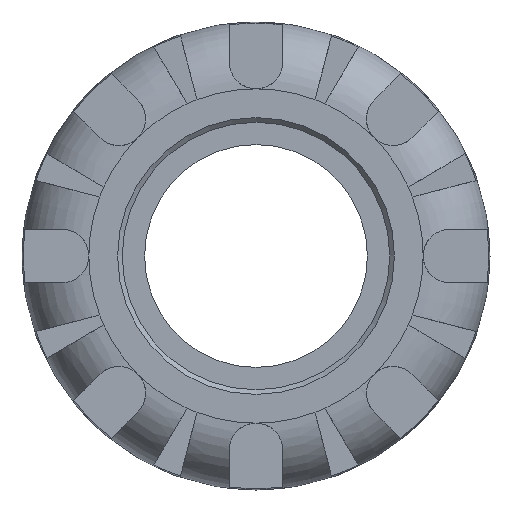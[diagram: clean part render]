
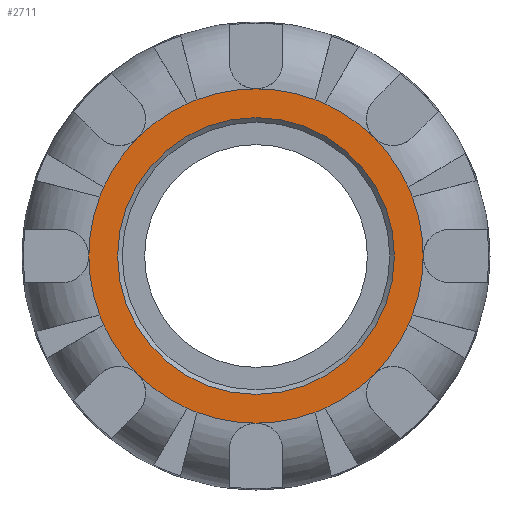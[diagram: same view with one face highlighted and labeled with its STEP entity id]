
A CAD part, left-side view. The second image highlights one B-rep face of the part: STEP entity #2711.
In plain terms, the highlighted planar face has unit normal (-1, 0, 0).
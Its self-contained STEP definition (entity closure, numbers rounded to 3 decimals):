
#19=FACE_BOUND('',#619,.T.);
#336=PLANE('',#2910);
#454=FACE_OUTER_BOUND('',#618,.T.);
#618=EDGE_LOOP('',(#1823,#1824,#1825,#1826,#1827,#1828,#1829,#1830,#1831,
#1832,#1833,#1834,#1835,#1836,#1837,#1838,#1839,#1840,#1841,#1842,#1843,
#1844,#1845,#1846));
#619=EDGE_LOOP('',(#1847));
#785=CIRCLE('',#2907,20.7);
#788=CIRCLE('',#2911,25.);
#789=CIRCLE('',#2912,25.);
#790=CIRCLE('',#2913,25.);
#791=CIRCLE('',#2914,25.);
#792=CIRCLE('',#2915,25.);
#793=CIRCLE('',#2916,25.);
#794=CIRCLE('',#2917,25.);
#795=CIRCLE('',#2918,25.);
#796=CIRCLE('',#2919,25.);
#797=CIRCLE('',#2920,25.);
#798=CIRCLE('',#2921,25.);
#799=CIRCLE('',#2922,25.);
#800=CIRCLE('',#2923,25.);
#801=CIRCLE('',#2924,25.);
#802=CIRCLE('',#2925,25.);
#803=CIRCLE('',#2926,25.);
#804=CIRCLE('',#2927,25.);
#805=CIRCLE('',#2928,25.);
#806=CIRCLE('',#2929,25.);
#807=CIRCLE('',#2930,25.);
#808=CIRCLE('',#2931,25.);
#809=CIRCLE('',#2932,25.);
#810=CIRCLE('',#2933,25.);
#811=CIRCLE('',#2934,25.);
#1077=VERTEX_POINT('',#4318);
#1080=VERTEX_POINT('',#4326);
#1081=VERTEX_POINT('',#4327);
#1082=VERTEX_POINT('',#4329);
#1083=VERTEX_POINT('',#4331);
#1084=VERTEX_POINT('',#4333);
#1085=VERTEX_POINT('',#4335);
#1086=VERTEX_POINT('',#4337);
#1087=VERTEX_POINT('',#4339);
#1088=VERTEX_POINT('',#4341);
#1089=VERTEX_POINT('',#4343);
#1090=VERTEX_POINT('',#4345);
#1091=VERTEX_POINT('',#4347);
#1092=VERTEX_POINT('',#4349);
#1093=VERTEX_POINT('',#4351);
#1094=VERTEX_POINT('',#4353);
#1095=VERTEX_POINT('',#4355);
#1096=VERTEX_POINT('',#4357);
#1097=VERTEX_POINT('',#4359);
#1098=VERTEX_POINT('',#4361);
#1099=VERTEX_POINT('',#4363);
#1100=VERTEX_POINT('',#4365);
#1101=VERTEX_POINT('',#4367);
#1102=VERTEX_POINT('',#4369);
#1103=VERTEX_POINT('',#4371);
#1363=EDGE_CURVE('',#1077,#1077,#785,.T.);
#1367=EDGE_CURVE('',#1080,#1081,#788,.T.);
#1368=EDGE_CURVE('',#1082,#1080,#789,.T.);
#1369=EDGE_CURVE('',#1083,#1082,#790,.T.);
#1370=EDGE_CURVE('',#1084,#1083,#791,.T.);
#1371=EDGE_CURVE('',#1085,#1084,#792,.T.);
#1372=EDGE_CURVE('',#1086,#1085,#793,.T.);
#1373=EDGE_CURVE('',#1087,#1086,#794,.T.);
#1374=EDGE_CURVE('',#1088,#1087,#795,.T.);
#1375=EDGE_CURVE('',#1089,#1088,#796,.T.);
#1376=EDGE_CURVE('',#1090,#1089,#797,.T.);
#1377=EDGE_CURVE('',#1091,#1090,#798,.T.);
#1378=EDGE_CURVE('',#1092,#1091,#799,.T.);
#1379=EDGE_CURVE('',#1093,#1092,#800,.T.);
#1380=EDGE_CURVE('',#1094,#1093,#801,.T.);
#1381=EDGE_CURVE('',#1095,#1094,#802,.T.);
#1382=EDGE_CURVE('',#1096,#1095,#803,.T.);
#1383=EDGE_CURVE('',#1097,#1096,#804,.T.);
#1384=EDGE_CURVE('',#1098,#1097,#805,.T.);
#1385=EDGE_CURVE('',#1099,#1098,#806,.T.);
#1386=EDGE_CURVE('',#1100,#1099,#807,.T.);
#1387=EDGE_CURVE('',#1101,#1100,#808,.T.);
#1388=EDGE_CURVE('',#1102,#1101,#809,.T.);
#1389=EDGE_CURVE('',#1103,#1102,#810,.T.);
#1390=EDGE_CURVE('',#1081,#1103,#811,.T.);
#1823=ORIENTED_EDGE('',*,*,#1367,.F.);
#1824=ORIENTED_EDGE('',*,*,#1368,.F.);
#1825=ORIENTED_EDGE('',*,*,#1369,.F.);
#1826=ORIENTED_EDGE('',*,*,#1370,.F.);
#1827=ORIENTED_EDGE('',*,*,#1371,.F.);
#1828=ORIENTED_EDGE('',*,*,#1372,.F.);
#1829=ORIENTED_EDGE('',*,*,#1373,.F.);
#1830=ORIENTED_EDGE('',*,*,#1374,.F.);
#1831=ORIENTED_EDGE('',*,*,#1375,.F.);
#1832=ORIENTED_EDGE('',*,*,#1376,.F.);
#1833=ORIENTED_EDGE('',*,*,#1377,.F.);
#1834=ORIENTED_EDGE('',*,*,#1378,.F.);
#1835=ORIENTED_EDGE('',*,*,#1379,.F.);
#1836=ORIENTED_EDGE('',*,*,#1380,.F.);
#1837=ORIENTED_EDGE('',*,*,#1381,.F.);
#1838=ORIENTED_EDGE('',*,*,#1382,.F.);
#1839=ORIENTED_EDGE('',*,*,#1383,.F.);
#1840=ORIENTED_EDGE('',*,*,#1384,.F.);
#1841=ORIENTED_EDGE('',*,*,#1385,.F.);
#1842=ORIENTED_EDGE('',*,*,#1386,.F.);
#1843=ORIENTED_EDGE('',*,*,#1387,.F.);
#1844=ORIENTED_EDGE('',*,*,#1388,.F.);
#1845=ORIENTED_EDGE('',*,*,#1389,.F.);
#1846=ORIENTED_EDGE('',*,*,#1390,.F.);
#1847=ORIENTED_EDGE('',*,*,#1363,.F.);
#2711=ADVANCED_FACE('',(#454,#19),#336,.T.);
#2907=AXIS2_PLACEMENT_3D('',#4319,#3279,#3280);
#2910=AXIS2_PLACEMENT_3D('',#4325,#3286,#3287);
#2911=AXIS2_PLACEMENT_3D('',#4328,#3288,#3289);
#2912=AXIS2_PLACEMENT_3D('',#4330,#3290,#3291);
#2913=AXIS2_PLACEMENT_3D('',#4332,#3292,#3293);
#2914=AXIS2_PLACEMENT_3D('',#4334,#3294,#3295);
#2915=AXIS2_PLACEMENT_3D('',#4336,#3296,#3297);
#2916=AXIS2_PLACEMENT_3D('',#4338,#3298,#3299);
#2917=AXIS2_PLACEMENT_3D('',#4340,#3300,#3301);
#2918=AXIS2_PLACEMENT_3D('',#4342,#3302,#3303);
#2919=AXIS2_PLACEMENT_3D('',#4344,#3304,#3305);
#2920=AXIS2_PLACEMENT_3D('',#4346,#3306,#3307);
#2921=AXIS2_PLACEMENT_3D('',#4348,#3308,#3309);
#2922=AXIS2_PLACEMENT_3D('',#4350,#3310,#3311);
#2923=AXIS2_PLACEMENT_3D('',#4352,#3312,#3313);
#2924=AXIS2_PLACEMENT_3D('',#4354,#3314,#3315);
#2925=AXIS2_PLACEMENT_3D('',#4356,#3316,#3317);
#2926=AXIS2_PLACEMENT_3D('',#4358,#3318,#3319);
#2927=AXIS2_PLACEMENT_3D('',#4360,#3320,#3321);
#2928=AXIS2_PLACEMENT_3D('',#4362,#3322,#3323);
#2929=AXIS2_PLACEMENT_3D('',#4364,#3324,#3325);
#2930=AXIS2_PLACEMENT_3D('',#4366,#3326,#3327);
#2931=AXIS2_PLACEMENT_3D('',#4368,#3328,#3329);
#2932=AXIS2_PLACEMENT_3D('',#4370,#3330,#3331);
#2933=AXIS2_PLACEMENT_3D('',#4372,#3332,#3333);
#2934=AXIS2_PLACEMENT_3D('',#4373,#3334,#3335);
#3279=DIRECTION('center_axis',(-1.,0.,0.));
#3280=DIRECTION('ref_axis',(0.,-1.,0.));
#3286=DIRECTION('center_axis',(-1.,0.,0.));
#3287=DIRECTION('ref_axis',(0.,0.,1.));
#3288=DIRECTION('center_axis',(1.,0.,0.));
#3289=DIRECTION('ref_axis',(0.,0.,-1.));
#3290=DIRECTION('center_axis',(1.,0.,0.));
#3291=DIRECTION('ref_axis',(0.,0.,-1.));
#3292=DIRECTION('center_axis',(1.,0.,0.));
#3293=DIRECTION('ref_axis',(0.,0.,-1.));
#3294=DIRECTION('center_axis',(1.,0.,0.));
#3295=DIRECTION('ref_axis',(0.,0.,-1.));
#3296=DIRECTION('center_axis',(1.,0.,0.));
#3297=DIRECTION('ref_axis',(0.,0.,-1.));
#3298=DIRECTION('center_axis',(1.,0.,0.));
#3299=DIRECTION('ref_axis',(0.,0.,-1.));
#3300=DIRECTION('center_axis',(1.,0.,0.));
#3301=DIRECTION('ref_axis',(0.,0.,-1.));
#3302=DIRECTION('center_axis',(1.,0.,0.));
#3303=DIRECTION('ref_axis',(0.,0.,-1.));
#3304=DIRECTION('center_axis',(1.,0.,0.));
#3305=DIRECTION('ref_axis',(0.,0.,-1.));
#3306=DIRECTION('center_axis',(1.,0.,0.));
#3307=DIRECTION('ref_axis',(0.,0.,-1.));
#3308=DIRECTION('center_axis',(1.,0.,0.));
#3309=DIRECTION('ref_axis',(0.,0.,-1.));
#3310=DIRECTION('center_axis',(1.,0.,0.));
#3311=DIRECTION('ref_axis',(0.,0.,-1.));
#3312=DIRECTION('center_axis',(1.,0.,0.));
#3313=DIRECTION('ref_axis',(0.,0.,-1.));
#3314=DIRECTION('center_axis',(1.,0.,0.));
#3315=DIRECTION('ref_axis',(0.,0.,-1.));
#3316=DIRECTION('center_axis',(1.,0.,0.));
#3317=DIRECTION('ref_axis',(0.,0.,-1.));
#3318=DIRECTION('center_axis',(1.,0.,0.));
#3319=DIRECTION('ref_axis',(0.,0.,-1.));
#3320=DIRECTION('center_axis',(1.,0.,0.));
#3321=DIRECTION('ref_axis',(0.,0.,-1.));
#3322=DIRECTION('center_axis',(1.,0.,0.));
#3323=DIRECTION('ref_axis',(0.,0.,-1.));
#3324=DIRECTION('center_axis',(1.,0.,0.));
#3325=DIRECTION('ref_axis',(0.,0.,-1.));
#3326=DIRECTION('center_axis',(1.,0.,0.));
#3327=DIRECTION('ref_axis',(0.,0.,-1.));
#3328=DIRECTION('center_axis',(1.,0.,0.));
#3329=DIRECTION('ref_axis',(0.,0.,-1.));
#3330=DIRECTION('center_axis',(1.,0.,0.));
#3331=DIRECTION('ref_axis',(0.,0.,-1.));
#3332=DIRECTION('center_axis',(1.,0.,0.));
#3333=DIRECTION('ref_axis',(0.,0.,-1.));
#3334=DIRECTION('center_axis',(1.,0.,0.));
#3335=DIRECTION('ref_axis',(0.,0.,-1.));
#4318=CARTESIAN_POINT('',(-74.,20.7,0.));
#4319=CARTESIAN_POINT('Origin',(-74.,0.,0.));
#4325=CARTESIAN_POINT('Origin',(-74.,25.,0.));
#4326=CARTESIAN_POINT('',(-74.,25.,0.));
#4327=CARTESIAN_POINT('',(-74.,23.391,8.823));
#4328=CARTESIAN_POINT('Origin',(-74.,0.,0.));
#4329=CARTESIAN_POINT('',(-74.,23.391,-8.823));
#4330=CARTESIAN_POINT('Origin',(-74.,0.,0.));
#4331=CARTESIAN_POINT('',(-74.,22.779,-10.301));
#4332=CARTESIAN_POINT('Origin',(-74.,0.,0.));
#4333=CARTESIAN_POINT('',(-74.,17.678,-17.678));
#4334=CARTESIAN_POINT('Origin',(-74.,0.,0.));
#4335=CARTESIAN_POINT('',(-74.,10.301,-22.779));
#4336=CARTESIAN_POINT('Origin',(-74.,0.,0.));
#4337=CARTESIAN_POINT('',(-74.,8.823,-23.391));
#4338=CARTESIAN_POINT('Origin',(-74.,0.,0.));
#4339=CARTESIAN_POINT('',(-74.,0.,-25.));
#4340=CARTESIAN_POINT('Origin',(-74.,0.,0.));
#4341=CARTESIAN_POINT('',(-74.,-8.823,-23.391));
#4342=CARTESIAN_POINT('Origin',(-74.,0.,0.));
#4343=CARTESIAN_POINT('',(-74.,-10.301,-22.779));
#4344=CARTESIAN_POINT('Origin',(-74.,0.,0.));
#4345=CARTESIAN_POINT('',(-74.,-17.678,-17.678));
#4346=CARTESIAN_POINT('Origin',(-74.,0.,0.));
#4347=CARTESIAN_POINT('',(-74.,-22.779,-10.301));
#4348=CARTESIAN_POINT('Origin',(-74.,0.,0.));
#4349=CARTESIAN_POINT('',(-74.,-23.391,-8.823));
#4350=CARTESIAN_POINT('Origin',(-74.,0.,0.));
#4351=CARTESIAN_POINT('',(-74.,-25.,0.));
#4352=CARTESIAN_POINT('Origin',(-74.,0.,0.));
#4353=CARTESIAN_POINT('',(-74.,-23.391,8.823));
#4354=CARTESIAN_POINT('Origin',(-74.,0.,0.));
#4355=CARTESIAN_POINT('',(-74.,-22.779,10.301));
#4356=CARTESIAN_POINT('Origin',(-74.,0.,0.));
#4357=CARTESIAN_POINT('',(-74.,-17.678,17.678));
#4358=CARTESIAN_POINT('Origin',(-74.,0.,0.));
#4359=CARTESIAN_POINT('',(-74.,-10.301,22.779));
#4360=CARTESIAN_POINT('Origin',(-74.,0.,0.));
#4361=CARTESIAN_POINT('',(-74.,-8.823,23.391));
#4362=CARTESIAN_POINT('Origin',(-74.,0.,0.));
#4363=CARTESIAN_POINT('',(-74.,0.,25.));
#4364=CARTESIAN_POINT('Origin',(-74.,0.,0.));
#4365=CARTESIAN_POINT('',(-74.,8.823,23.391));
#4366=CARTESIAN_POINT('Origin',(-74.,0.,0.));
#4367=CARTESIAN_POINT('',(-74.,10.301,22.779));
#4368=CARTESIAN_POINT('Origin',(-74.,0.,0.));
#4369=CARTESIAN_POINT('',(-74.,17.678,17.678));
#4370=CARTESIAN_POINT('Origin',(-74.,0.,0.));
#4371=CARTESIAN_POINT('',(-74.,22.779,10.301));
#4372=CARTESIAN_POINT('Origin',(-74.,0.,0.));
#4373=CARTESIAN_POINT('Origin',(-74.,0.,0.));
